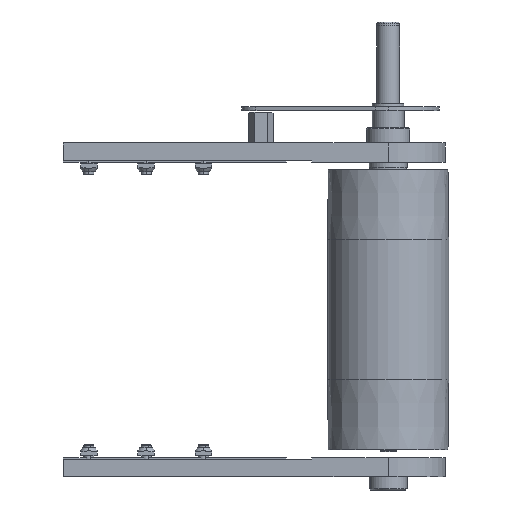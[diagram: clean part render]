
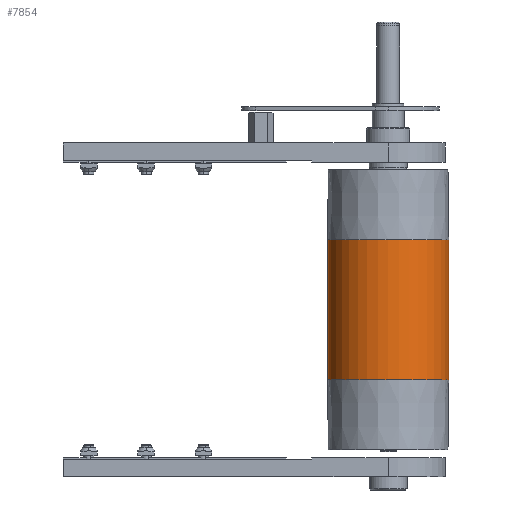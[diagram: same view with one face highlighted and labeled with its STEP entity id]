
A CAD part, front view. The second image highlights one B-rep face of the part: STEP entity #7854.
In plain terms, the highlighted cylindrical face has radius 47.5 mm (diameter 95 mm), a partial arc.
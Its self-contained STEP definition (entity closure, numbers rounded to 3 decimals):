
#223 = EDGE_CURVE ( 'NONE', #9387, #2808, #9966, .T. ) ;
#738 = DIRECTION ( 'NONE',  ( 0., 0., 1. ) ) ;
#1191 = DIRECTION ( 'NONE',  ( 1., 0., 0. ) ) ;
#1685 = DIRECTION ( 'NONE',  ( -1., 0., 0. ) ) ;
#1749 = DIRECTION ( 'NONE',  ( 1., 0., 0. ) ) ;
#2094 = CIRCLE ( 'NONE', #5773, 47.5 ) ;
#2305 = ORIENTED_EDGE ( 'NONE', *, *, #223, .T. ) ;
#2666 = CIRCLE ( 'NONE', #19415, 47.5 ) ;
#2808 = VERTEX_POINT ( 'NONE', #11047 ) ;
#3185 = DIRECTION ( 'NONE',  ( 0., 0., -1. ) ) ;
#3194 = DIRECTION ( 'NONE',  ( -1., 0., 0. ) ) ;
#3415 = CARTESIAN_POINT ( 'NONE',  ( -55., 0., -47.5 ) ) ;
#3759 = ORIENTED_EDGE ( 'NONE', *, *, #19192, .F. ) ;
#5434 = CARTESIAN_POINT ( 'NONE',  ( 55., 0., -47.5 ) ) ;
#5773 = AXIS2_PLACEMENT_3D ( 'NONE', #19938, #1191, #3185 ) ;
#7589 = CARTESIAN_POINT ( 'NONE',  ( 55., 0., 47.5 ) ) ;
#7788 = VERTEX_POINT ( 'NONE', #3415 ) ;
#7831 = DIRECTION ( 'NONE',  ( 0., 0., -1. ) ) ;
#7854 = ADVANCED_FACE ( 'NONE', ( #9910 ), #11586, .T. ) ;
#9387 = VERTEX_POINT ( 'NONE', #7589 ) ;
#9910 = FACE_OUTER_BOUND ( 'NONE', #10175, .T. ) ;
#9966 = LINE ( 'NONE', #18783, #11404 ) ;
#10175 = EDGE_LOOP ( 'NONE', ( #10996, #3759, #2305, #19493 ) ) ;
#10555 = VERTEX_POINT ( 'NONE', #5434 ) ;
#10789 = EDGE_CURVE ( 'NONE', #2808, #7788, #2094, .T. ) ;
#10883 = VECTOR ( 'NONE', #1685, 1000. ) ;
#10996 = ORIENTED_EDGE ( 'NONE', *, *, #19166, .F. ) ;
#11047 = CARTESIAN_POINT ( 'NONE',  ( -55., 0., 47.5 ) ) ;
#11371 = AXIS2_PLACEMENT_3D ( 'NONE', #19199, #17717, #738 ) ;
#11404 = VECTOR ( 'NONE', #3194, 1000. ) ;
#11586 = CYLINDRICAL_SURFACE ( 'NONE', #11371, 47.5 ) ;
#14029 = CARTESIAN_POINT ( 'NONE',  ( 55., 0., 0. ) ) ;
#14965 = LINE ( 'NONE', #17052, #10883 ) ;
#17052 = CARTESIAN_POINT ( 'NONE',  ( 110., 0., -47.5 ) ) ;
#17717 = DIRECTION ( 'NONE',  ( -1., 0., 0. ) ) ;
#18783 = CARTESIAN_POINT ( 'NONE',  ( 110., 0., 47.5 ) ) ;
#19166 = EDGE_CURVE ( 'NONE', #10555, #7788, #14965, .T. ) ;
#19192 = EDGE_CURVE ( 'NONE', #9387, #10555, #2666, .T. ) ;
#19199 = CARTESIAN_POINT ( 'NONE',  ( 110., 0., 0. ) ) ;
#19415 = AXIS2_PLACEMENT_3D ( 'NONE', #14029, #1749, #7831 ) ;
#19493 = ORIENTED_EDGE ( 'NONE', *, *, #10789, .T. ) ;
#19938 = CARTESIAN_POINT ( 'NONE',  ( -55., 0., 0. ) ) ;
